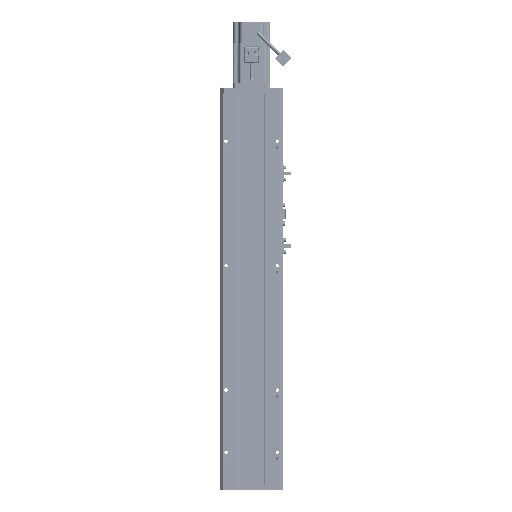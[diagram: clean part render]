
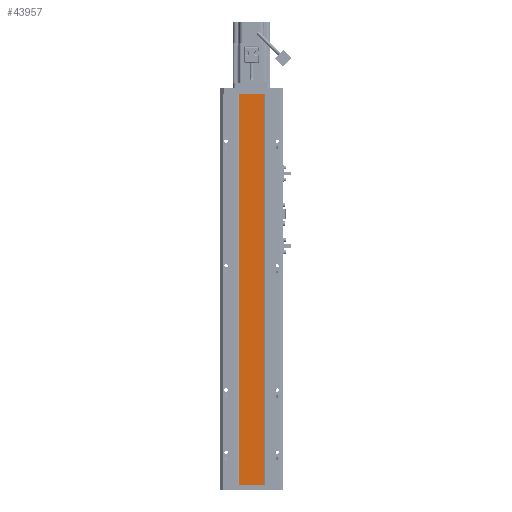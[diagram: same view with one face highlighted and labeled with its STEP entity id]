
A CAD part, front view. The second image highlights one B-rep face of the part: STEP entity #43957.
In plain terms, the highlighted planar face has unit normal (0, -1, 0).
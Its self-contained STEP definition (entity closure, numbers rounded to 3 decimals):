
#777 = CARTESIAN_POINT ( 'NONE',  ( -20., 0., -628.5 ) ) ;
#7998 = AXIS2_PLACEMENT_3D ( 'NONE', #18160, #74976, #32626 ) ;
#8080 = DIRECTION ( 'NONE',  ( 0., 0., 1. ) ) ;
#9362 = LINE ( 'NONE', #10620, #10288 ) ;
#10288 = VECTOR ( 'NONE', #11247, 1000. ) ;
#10620 = CARTESIAN_POINT ( 'NONE',  ( -20., 0., -628.5 ) ) ;
#11247 = DIRECTION ( 'NONE',  ( 0., 0., 1. ) ) ;
#13313 = EDGE_CURVE ( 'NONE', #65830, #25358, #40002, .T. ) ;
#14008 = EDGE_CURVE ( 'NONE', #25358, #80931, #18723, .T. ) ;
#14289 = EDGE_CURVE ( 'NONE', #82760, #80931, #9362, .T. ) ;
#14855 = EDGE_CURVE ( 'NONE', #65830, #82760, #88372, .T. ) ;
#17464 = FACE_OUTER_BOUND ( 'NONE', #30037, .T. ) ;
#18160 = CARTESIAN_POINT ( 'NONE',  ( 20., 0., -628.5 ) ) ;
#18629 = VECTOR ( 'NONE', #24431, 1000. ) ;
#18723 = LINE ( 'NONE', #25052, #18629 ) ;
#24431 = DIRECTION ( 'NONE',  ( -1., 0., 0. ) ) ;
#25052 = CARTESIAN_POINT ( 'NONE',  ( 20., 0., 0. ) ) ;
#25358 = VERTEX_POINT ( 'NONE', #77248 ) ;
#30037 = EDGE_LOOP ( 'NONE', ( #86390, #73968, #71749, #70623 ) ) ;
#32110 = DIRECTION ( 'NONE',  ( -1., 0., 0. ) ) ;
#32402 = CARTESIAN_POINT ( 'NONE',  ( 20., 0., -628.5 ) ) ;
#32626 = DIRECTION ( 'NONE',  ( -1., 0., 0. ) ) ;
#39913 = VECTOR ( 'NONE', #8080, 1000. ) ;
#40002 = LINE ( 'NONE', #57053, #39913 ) ;
#43957 = ADVANCED_FACE ( 'NONE', ( #17464 ), #53804, .F. ) ;
#53804 = PLANE ( 'NONE',  #7998 ) ;
#55945 = CARTESIAN_POINT ( 'NONE',  ( 20., 0., -628.5 ) ) ;
#57053 = CARTESIAN_POINT ( 'NONE',  ( 20., 0., -628.5 ) ) ;
#65830 = VERTEX_POINT ( 'NONE', #55945 ) ;
#70623 = ORIENTED_EDGE ( 'NONE', *, *, #13313, .T. ) ;
#71706 = CARTESIAN_POINT ( 'NONE',  ( -20., 0., 0. ) ) ;
#71749 = ORIENTED_EDGE ( 'NONE', *, *, #14855, .F. ) ;
#73968 = ORIENTED_EDGE ( 'NONE', *, *, #14289, .F. ) ;
#74976 = DIRECTION ( 'NONE',  ( 0., 1., 0. ) ) ;
#77248 = CARTESIAN_POINT ( 'NONE',  ( 20., 0., 0. ) ) ;
#80931 = VERTEX_POINT ( 'NONE', #71706 ) ;
#82760 = VERTEX_POINT ( 'NONE', #777 ) ;
#86390 = ORIENTED_EDGE ( 'NONE', *, *, #14008, .T. ) ;
#88099 = VECTOR ( 'NONE', #32110, 1000. ) ;
#88372 = LINE ( 'NONE', #32402, #88099 ) ;
